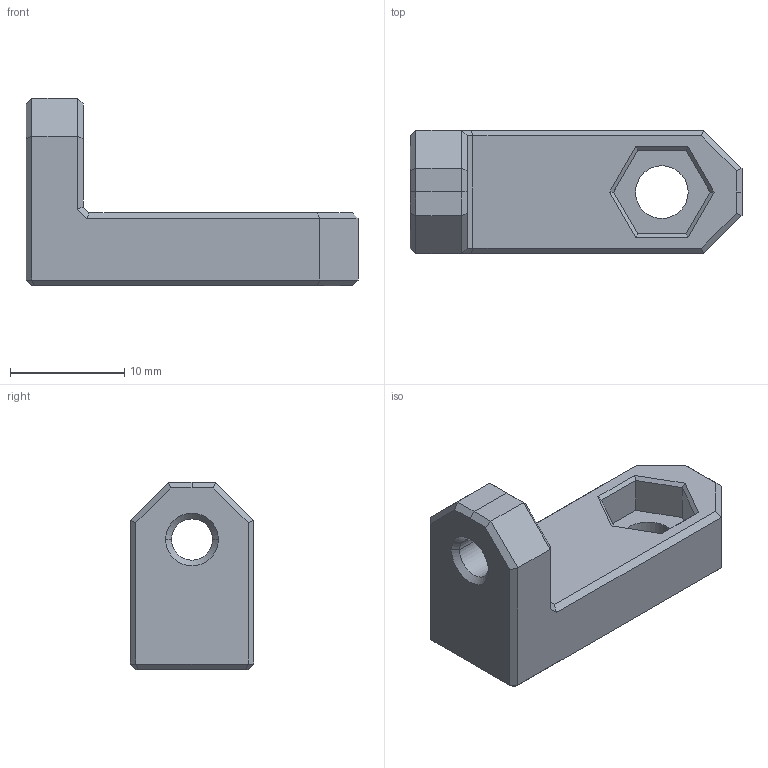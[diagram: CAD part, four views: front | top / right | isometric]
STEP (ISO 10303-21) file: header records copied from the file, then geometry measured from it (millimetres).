
FILE_DESCRIPTION(('CATIA V5 STEP Exchange'),'2;1');
FILE_NAME('D:\_이전 노트북\Cremaker모델링\Cremaker_profile-Metal(5차)-(Final)\cooling-fan-support.stp','2020-10-23T05:20:48+00:00',('none'),('none'),'CATIA Version 5 Release 20 GA (IN-10)','CATIA V5 STEP AP203','none');
FILE_SCHEMA(('CONFIG_CONTROL_DESIGN'));
Length unit declared in the file: millimetre
Products named in the file (1): cooling-fan-support
Bounding box: 29 x 10.8 x 16.38 mm (x, y, z)
Volume: 2121.3 mm3; surface area: 1418.7 mm2
Topology: 1 solids, 1 shells, 67 faces, 152 edges, 88 vertices
Faces by surface type: plane 57, cone 6, cylinder 4
Entity records: 1786 total; most frequent: CARTESIAN_POINT 334, ORIENTED_EDGE 304, DIRECTION 248, EDGE_CURVE 152, VECTOR 108, LINE 108, VERTEX_POINT 88, AXIS2_PLACEMENT_3D 78
